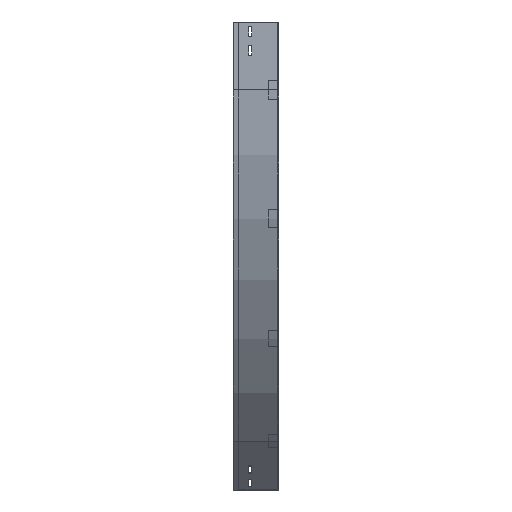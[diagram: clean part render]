
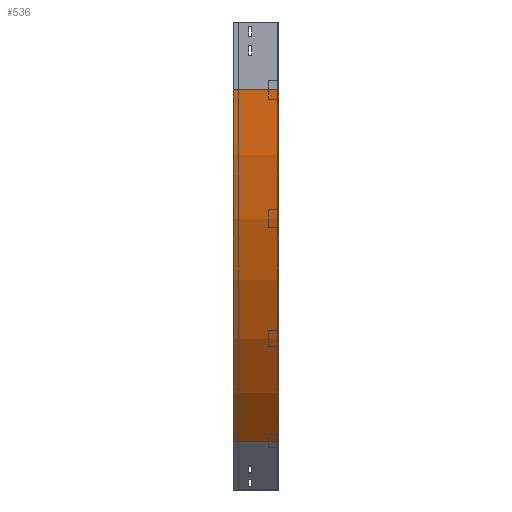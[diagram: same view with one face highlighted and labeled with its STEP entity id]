
A CAD part, left-side view. The second image highlights one B-rep face of the part: STEP entity #536.
In plain terms, the highlighted cylindrical face has radius 1100 mm (diameter 2200 mm), a partial arc.
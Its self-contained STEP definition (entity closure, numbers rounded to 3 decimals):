
#18 = DIRECTION ( 'NONE',  ( 0., 0., -1. ) ) ;
#36 = CARTESIAN_POINT ( 'NONE',  ( 1100., 0., -150. ) ) ;
#202 = VERTEX_POINT ( 'NONE', #762 ) ;
#215 = EDGE_CURVE ( 'NONE', #202, #2360, #2784, .T. ) ;
#223 = CARTESIAN_POINT ( 'NONE',  ( 0., 100., -150. ) ) ;
#240 = EDGE_LOOP ( 'NONE', ( #841, #2509, #286, #3822 ) ) ;
#278 = CYLINDRICAL_SURFACE ( 'NONE', #1010, 1100. ) ;
#286 = ORIENTED_EDGE ( 'NONE', *, *, #792, .T. ) ;
#473 = DIRECTION ( 'NONE',  ( -1., 0., 0. ) ) ;
#488 = CARTESIAN_POINT ( 'NONE',  ( 1100., 100., -150. ) ) ;
#536 = ADVANCED_FACE ( 'NONE', ( #2660 ), #278, .T. ) ;
#571 = CIRCLE ( 'NONE', #1096, 1100. ) ;
#624 = VECTOR ( 'NONE', #1964, 1000. ) ;
#724 = CARTESIAN_POINT ( 'NONE',  ( 322.183, 0., -927.817 ) ) ;
#762 = CARTESIAN_POINT ( 'NONE',  ( 322.183, 100., -927.817 ) ) ;
#792 = EDGE_CURVE ( 'NONE', #1613, #202, #571, .T. ) ;
#841 = ORIENTED_EDGE ( 'NONE', *, *, #1276, .F. ) ;
#1010 = AXIS2_PLACEMENT_3D ( 'NONE', #36, #2420, #18 ) ;
#1096 = AXIS2_PLACEMENT_3D ( 'NONE', #488, #3823, #473 ) ;
#1100 = CARTESIAN_POINT ( 'NONE',  ( 1100., 0., -150. ) ) ;
#1276 = EDGE_CURVE ( 'NONE', #3810, #2360, #1597, .T. ) ;
#1404 = DIRECTION ( 'NONE',  ( 0., -1., 0. ) ) ;
#1576 = CARTESIAN_POINT ( 'NONE',  ( 0., 0., -150. ) ) ;
#1597 = CIRCLE ( 'NONE', #2641, 1100. ) ;
#1613 = VERTEX_POINT ( 'NONE', #223 ) ;
#1886 = EDGE_CURVE ( 'NONE', #1613, #3810, #1946, .T. ) ;
#1946 = LINE ( 'NONE', #2168, #3358 ) ;
#1964 = DIRECTION ( 'NONE',  ( 0., -1., 0. ) ) ;
#1990 = DIRECTION ( 'NONE',  ( -1., 0., 0. ) ) ;
#2024 = CARTESIAN_POINT ( 'NONE',  ( 322.183, 0., -927.817 ) ) ;
#2168 = CARTESIAN_POINT ( 'NONE',  ( 0., 0., -150. ) ) ;
#2360 = VERTEX_POINT ( 'NONE', #2024 ) ;
#2420 = DIRECTION ( 'NONE',  ( 0., -1., 0. ) ) ;
#2509 = ORIENTED_EDGE ( 'NONE', *, *, #1886, .F. ) ;
#2641 = AXIS2_PLACEMENT_3D ( 'NONE', #1100, #1404, #1990 ) ;
#2660 = FACE_OUTER_BOUND ( 'NONE', #240, .T. ) ;
#2784 = LINE ( 'NONE', #724, #624 ) ;
#3358 = VECTOR ( 'NONE', #3376, 1000. ) ;
#3376 = DIRECTION ( 'NONE',  ( 0., -1., 0. ) ) ;
#3810 = VERTEX_POINT ( 'NONE', #1576 ) ;
#3822 = ORIENTED_EDGE ( 'NONE', *, *, #215, .T. ) ;
#3823 = DIRECTION ( 'NONE',  ( 0., -1., 0. ) ) ;
